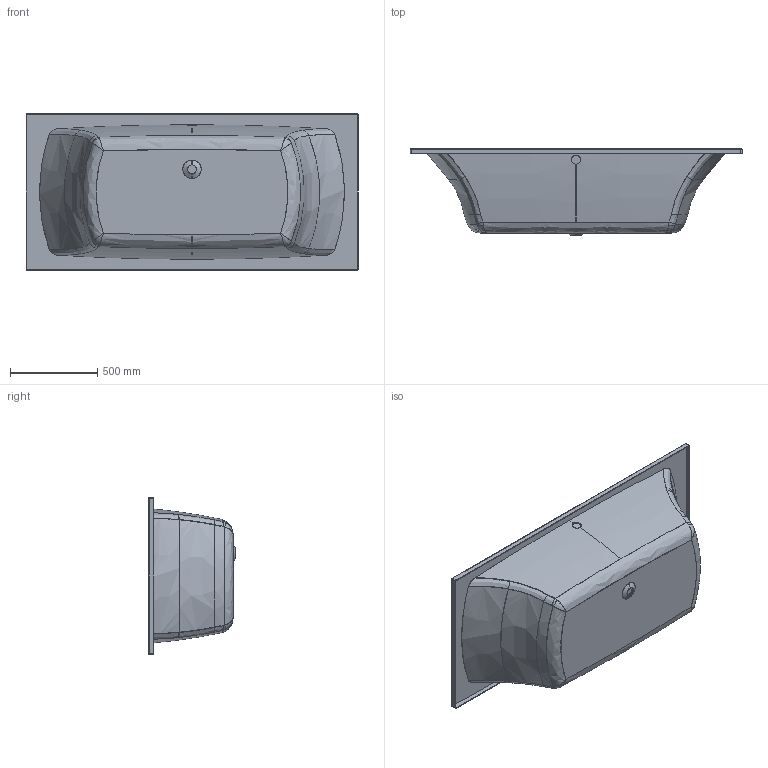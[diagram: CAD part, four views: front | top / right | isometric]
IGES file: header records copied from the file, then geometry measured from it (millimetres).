
Start section: SolidWorks IGES file using analytic representation for surfaces
Global section: file name: D:\Users\M.Szymanski\Desktop\Wanny\Largo\03. do przegrania\gotowe\WP_LA 190x90.IGS; native system: SolidWorks 2011; preprocessor: SolidWorks 2011; author: M.Szymanski; date: 180607.132548; units: millimetre
Bounding box: 1900 x 500.21 x 900 mm (x, y, z)
Surface area: 6480454.5 mm2 (no closed solid volume)
Topology: 0 solids, 0 shells, 132 faces, 1623 edges, 1613 vertices
Faces by surface type: bspline 104, revolution 28
